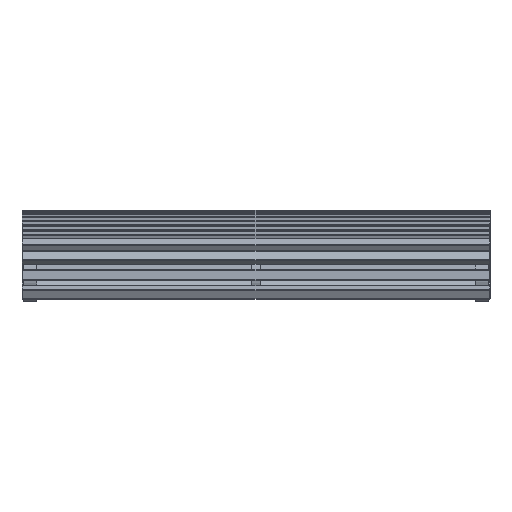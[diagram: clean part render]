
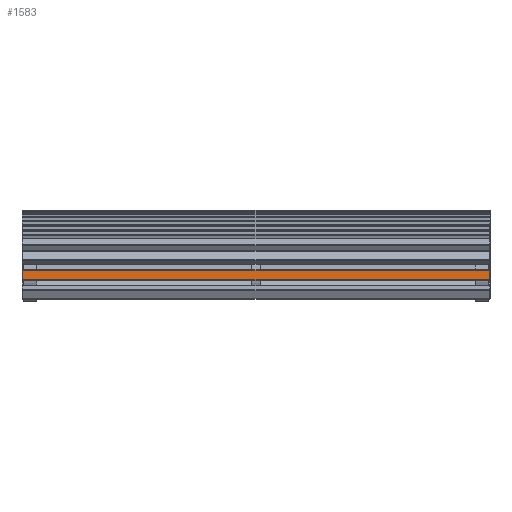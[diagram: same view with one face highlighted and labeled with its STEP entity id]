
A CAD part, front view. The second image highlights one B-rep face of the part: STEP entity #1583.
In plain terms, the highlighted planar face has unit normal (0, -0.999, 0.035).
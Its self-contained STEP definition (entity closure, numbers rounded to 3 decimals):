
#1583=ADVANCED_FACE('',(#2184),#8168,.T.);
#2184=FACE_OUTER_BOUND('',#2785,.T.);
#2785=EDGE_LOOP('',(#3673,#3674,#3675,#3676));
#3673=ORIENTED_EDGE('',*,*,#5962,.F.);
#3674=ORIENTED_EDGE('',*,*,#5964,.F.);
#3675=ORIENTED_EDGE('',*,*,#5963,.F.);
#3676=ORIENTED_EDGE('',*,*,#5965,.F.);
#5962=EDGE_CURVE('',#7593,#7592,#7054,.T.);
#5963=EDGE_CURVE('',#7595,#7594,#7055,.T.);
#5964=EDGE_CURVE('',#7594,#7593,#7056,.T.);
#5965=EDGE_CURVE('',#7592,#7595,#7057,.T.);
#7054=B_SPLINE_CURVE_WITH_KNOTS('',1,(#9718,#9719),.UNSPECIFIED.,.F.,.F.,
(2,2),(-14.2,43.2),.UNSPECIFIED.);
#7055=B_SPLINE_CURVE_WITH_KNOTS('',1,(#9720,#9721),.UNSPECIFIED.,.F.,.F.,
(2,2),(-14.2,43.2),.UNSPECIFIED.);
#7056=B_SPLINE_CURVE_WITH_KNOTS('',1,(#9722,#9723),.UNSPECIFIED.,.F.,.F.,
(2,2),(-0.75,2.85),.UNSPECIFIED.);
#7057=B_SPLINE_CURVE_WITH_KNOTS('',1,(#9724,#9725),.UNSPECIFIED.,.F.,.F.,
(2,2),(-0.75,2.85),.UNSPECIFIED.);
#7592=VERTEX_POINT('',#9686);
#7593=VERTEX_POINT('',#9687);
#7594=VERTEX_POINT('',#9688);
#7595=VERTEX_POINT('',#9689);
#8168=PLANE('',#8316);
#8316=AXIS2_PLACEMENT_3D('',#9530,#8447,$);
#8447=DIRECTION('',(0.,-0.999,0.035));
#9530=CARTESIAN_POINT('',(1747.03,0.001,82.746));
#9686=CARTESIAN_POINT('',(1747.,1.259,118.734));
#9687=CARTESIAN_POINT('',(3.,1.259,118.734));
#9688=CARTESIAN_POINT('',(3.,0.002,82.756));
#9689=CARTESIAN_POINT('',(1747.,0.002,82.756));
#9718=CARTESIAN_POINT('',(3.,1.259,118.734));
#9719=CARTESIAN_POINT('',(1747.,1.259,118.734));
#9720=CARTESIAN_POINT('',(1747.,0.002,82.756));
#9721=CARTESIAN_POINT('',(3.,0.002,82.756));
#9722=CARTESIAN_POINT('',(3.,0.002,82.756));
#9723=CARTESIAN_POINT('',(3.,1.259,118.734));
#9724=CARTESIAN_POINT('',(1747.,1.259,118.734));
#9725=CARTESIAN_POINT('',(1747.,0.002,82.756));
